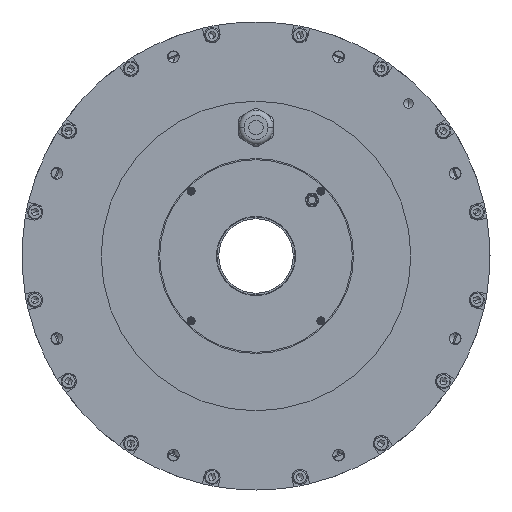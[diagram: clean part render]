
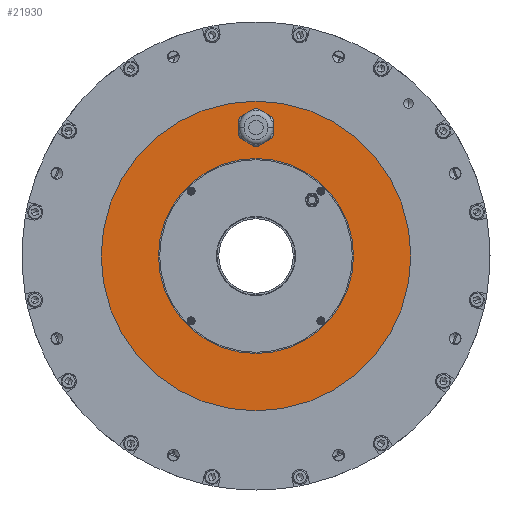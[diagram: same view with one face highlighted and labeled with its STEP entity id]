
A CAD part, front view. The second image highlights one B-rep face of the part: STEP entity #21930.
In plain terms, the highlighted planar face has unit normal (0, -1, 0).
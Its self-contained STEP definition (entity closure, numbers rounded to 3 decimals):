
#159 = CIRCLE ( 'NONE', #935, 85. ) ;
#935 = AXIS2_PLACEMENT_3D ( 'NONE', #46715, #43688, #32179 ) ;
#1314 = CARTESIAN_POINT ( 'NONE',  ( 0., -76.4, 85. ) ) ;
#1404 = DIRECTION ( 'NONE',  ( 0., 0., -1. ) ) ;
#2527 = CARTESIAN_POINT ( 'NONE',  ( 0., -76.4, 0. ) ) ;
#4331 = CIRCLE ( 'NONE', #32199, 135. ) ;
#4342 = VERTEX_POINT ( 'NONE', #42533 ) ;
#5402 = DIRECTION ( 'NONE',  ( 0., -1., 0. ) ) ;
#8478 = CARTESIAN_POINT ( 'NONE',  ( 0., -76.4, -135. ) ) ;
#9341 = EDGE_LOOP ( 'NONE', ( #31268, #34965 ) ) ;
#9459 = FACE_BOUND ( 'NONE', #9341, .T. ) ;
#10095 = AXIS2_PLACEMENT_3D ( 'NONE', #2527, #10764, #21477 ) ;
#10444 = CARTESIAN_POINT ( 'NONE',  ( 0., -76.4, 0. ) ) ;
#10553 = CARTESIAN_POINT ( 'NONE',  ( 0., -76.4, -85. ) ) ;
#10699 = ORIENTED_EDGE ( 'NONE', *, *, #19297, .F. ) ;
#10764 = DIRECTION ( 'NONE',  ( 0., -1., 0. ) ) ;
#12135 = CARTESIAN_POINT ( 'NONE',  ( 0., -76.4, 0. ) ) ;
#12858 = ORIENTED_EDGE ( 'NONE', *, *, #38244, .T. ) ;
#14199 = EDGE_CURVE ( 'NONE', #46147, #49217, #4331, .T. ) ;
#15271 = AXIS2_PLACEMENT_3D ( 'NONE', #10444, #25404, #40192 ) ;
#16253 = ORIENTED_EDGE ( 'NONE', *, *, #14199, .T. ) ;
#16985 = EDGE_CURVE ( 'NONE', #34730, #18512, #159, .T. ) ;
#17257 = CIRCLE ( 'NONE', #20456, 135. ) ;
#17929 = PLANE ( 'NONE',  #15271 ) ;
#18264 = AXIS2_PLACEMENT_3D ( 'NONE', #32226, #24733, #47505 ) ;
#18512 = VERTEX_POINT ( 'NONE', #1314 ) ;
#19297 = EDGE_CURVE ( 'NONE', #4342, #24109, #36625, .T. ) ;
#20456 = AXIS2_PLACEMENT_3D ( 'NONE', #12135, #5402, #1404 ) ;
#21477 = DIRECTION ( 'NONE',  ( 0., 0., -1. ) ) ;
#21677 = FACE_OUTER_BOUND ( 'NONE', #45862, .T. ) ;
#21930 = ADVANCED_FACE ( 'NONE', ( #47907, #9459, #21677 ), #17929, .T. ) ;
#24109 = VERTEX_POINT ( 'NONE', #43179 ) ;
#24538 = EDGE_LOOP ( 'NONE', ( #10699, #44151 ) ) ;
#24733 = DIRECTION ( 'NONE',  ( 0., -1., 0. ) ) ;
#25015 = DIRECTION ( 'NONE',  ( 0., 0., -1. ) ) ;
#25183 = EDGE_CURVE ( 'NONE', #24109, #4342, #48129, .T. ) ;
#25404 = DIRECTION ( 'NONE',  ( 0., -1., 0. ) ) ;
#26604 = AXIS2_PLACEMENT_3D ( 'NONE', #31425, #35697, #27927 ) ;
#27622 = EDGE_CURVE ( 'NONE', #18512, #34730, #45165, .T. ) ;
#27927 = DIRECTION ( 'NONE',  ( 0., 0., -1. ) ) ;
#31268 = ORIENTED_EDGE ( 'NONE', *, *, #16985, .F. ) ;
#31425 = CARTESIAN_POINT ( 'NONE',  ( 0., -76.4, 112. ) ) ;
#32179 = DIRECTION ( 'NONE',  ( 0., 0., -1. ) ) ;
#32199 = AXIS2_PLACEMENT_3D ( 'NONE', #32486, #35535, #25015 ) ;
#32226 = CARTESIAN_POINT ( 'NONE',  ( 0., -76.4, 112. ) ) ;
#32486 = CARTESIAN_POINT ( 'NONE',  ( 0., -76.4, 0. ) ) ;
#34730 = VERTEX_POINT ( 'NONE', #10553 ) ;
#34965 = ORIENTED_EDGE ( 'NONE', *, *, #27622, .F. ) ;
#35535 = DIRECTION ( 'NONE',  ( 0., -1., 0. ) ) ;
#35697 = DIRECTION ( 'NONE',  ( 0., -1., 0. ) ) ;
#36625 = CIRCLE ( 'NONE', #18264, 11.75 ) ;
#38244 = EDGE_CURVE ( 'NONE', #49217, #46147, #17257, .T. ) ;
#40192 = DIRECTION ( 'NONE',  ( 0., 0., -1. ) ) ;
#42533 = CARTESIAN_POINT ( 'NONE',  ( 0., -76.4, 100.25 ) ) ;
#43179 = CARTESIAN_POINT ( 'NONE',  ( 0., -76.4, 123.75 ) ) ;
#43688 = DIRECTION ( 'NONE',  ( 0., -1., 0. ) ) ;
#44151 = ORIENTED_EDGE ( 'NONE', *, *, #25183, .F. ) ;
#45165 = CIRCLE ( 'NONE', #10095, 85. ) ;
#45862 = EDGE_LOOP ( 'NONE', ( #16253, #12858 ) ) ;
#46147 = VERTEX_POINT ( 'NONE', #46248 ) ;
#46248 = CARTESIAN_POINT ( 'NONE',  ( 0., -76.4, 135. ) ) ;
#46715 = CARTESIAN_POINT ( 'NONE',  ( 0., -76.4, 0. ) ) ;
#47505 = DIRECTION ( 'NONE',  ( 0., 0., -1. ) ) ;
#47907 = FACE_BOUND ( 'NONE', #24538, .T. ) ;
#48129 = CIRCLE ( 'NONE', #26604, 11.75 ) ;
#49217 = VERTEX_POINT ( 'NONE', #8478 ) ;
